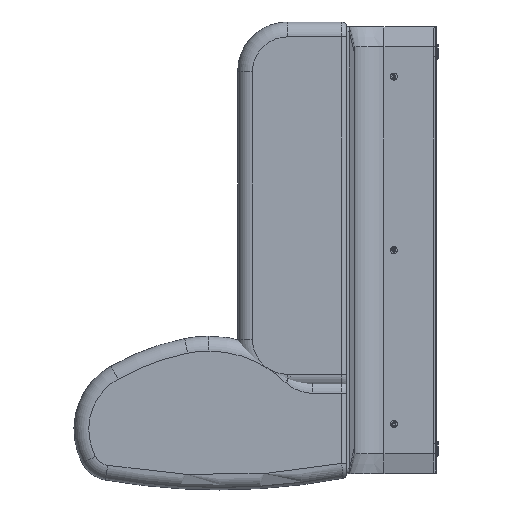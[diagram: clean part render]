
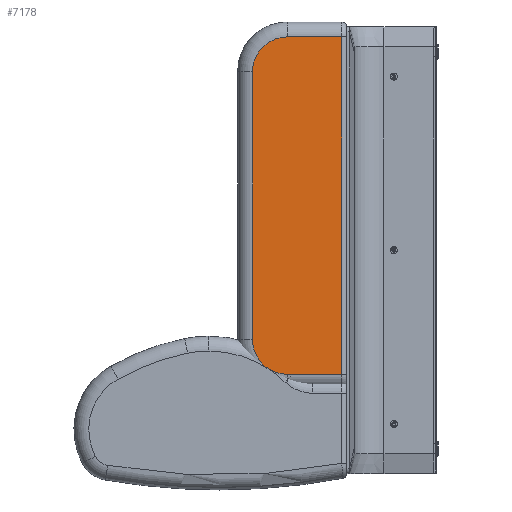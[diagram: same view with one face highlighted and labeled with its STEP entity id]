
A CAD part, left-side view. The second image highlights one B-rep face of the part: STEP entity #7178.
In plain terms, the highlighted planar face has unit normal (-1, 0, 0).
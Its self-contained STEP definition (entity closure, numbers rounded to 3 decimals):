
#118 = CARTESIAN_POINT ( 'NONE',  ( -615., 190., -90. ) ) ;
#333 = AXIS2_PLACEMENT_3D ( 'NONE', #5410, #7599, #4746 ) ;
#365 = ORIENTED_EDGE ( 'NONE', *, *, #4636, .T. ) ;
#618 = VECTOR ( 'NONE', #9171, 1000. ) ;
#760 = CARTESIAN_POINT ( 'NONE',  ( -615., 190., 10. ) ) ;
#857 = DIRECTION ( 'NONE',  ( 0., 0., -1. ) ) ;
#1058 = FACE_OUTER_BOUND ( 'NONE', #6785, .T. ) ;
#1392 = DIRECTION ( 'NONE',  ( 0., -1., 0. ) ) ;
#1474 = ORIENTED_EDGE ( 'NONE', *, *, #5000, .T. ) ;
#1631 = DIRECTION ( 'NONE',  ( 0., 0., -1. ) ) ;
#1732 = CARTESIAN_POINT ( 'NONE',  ( -615., 120., -20. ) ) ;
#1764 = EDGE_CURVE ( 'NONE', #6513, #4954, #8873, .T. ) ;
#1834 = CARTESIAN_POINT ( 'NONE',  ( -615., 220., -20. ) ) ;
#1856 = VERTEX_POINT ( 'NONE', #1732 ) ;
#1920 = CARTESIAN_POINT ( 'NONE',  ( -615., 10., -700. ) ) ;
#2056 = ORIENTED_EDGE ( 'NONE', *, *, #7579, .T. ) ;
#2620 = CIRCLE ( 'NONE', #333, 70. ) ;
#2637 = PLANE ( 'NONE',  #3777 ) ;
#3155 = CARTESIAN_POINT ( 'NONE',  ( -615., 10., -20. ) ) ;
#3161 = CARTESIAN_POINT ( 'NONE',  ( -615., 120., -90. ) ) ;
#3305 = ORIENTED_EDGE ( 'NONE', *, *, #4675, .T. ) ;
#3777 = AXIS2_PLACEMENT_3D ( 'NONE', #9115, #4738, #3974 ) ;
#3974 = DIRECTION ( 'NONE',  ( 0., 0., -1. ) ) ;
#4603 = AXIS2_PLACEMENT_3D ( 'NONE', #3161, #8762, #857 ) ;
#4636 = EDGE_CURVE ( 'NONE', #4954, #5082, #2620, .T. ) ;
#4675 = EDGE_CURVE ( 'NONE', #5884, #1856, #8358, .T. ) ;
#4738 = DIRECTION ( 'NONE',  ( 1., 0., 0. ) ) ;
#4746 = DIRECTION ( 'NONE',  ( 0., 0., -1. ) ) ;
#4812 = EDGE_CURVE ( 'NONE', #5082, #6010, #9391, .T. ) ;
#4954 = VERTEX_POINT ( 'NONE', #6779 ) ;
#5000 = EDGE_CURVE ( 'NONE', #1856, #6513, #7490, .T. ) ;
#5003 = ORIENTED_EDGE ( 'NONE', *, *, #4812, .T. ) ;
#5082 = VERTEX_POINT ( 'NONE', #6108 ) ;
#5410 = CARTESIAN_POINT ( 'NONE',  ( -615., 120., -630. ) ) ;
#5884 = VERTEX_POINT ( 'NONE', #8126 ) ;
#6010 = VERTEX_POINT ( 'NONE', #1920 ) ;
#6108 = CARTESIAN_POINT ( 'NONE',  ( -615., 120., -700. ) ) ;
#6513 = VERTEX_POINT ( 'NONE', #118 ) ;
#6771 = LINE ( 'NONE', #3155, #8205 ) ;
#6779 = CARTESIAN_POINT ( 'NONE',  ( -615., 190., -630. ) ) ;
#6785 = EDGE_LOOP ( 'NONE', ( #5003, #2056, #3305, #1474, #8135, #365 ) ) ;
#7170 = VECTOR ( 'NONE', #1392, 1000. ) ;
#7178 = ADVANCED_FACE ( 'NONE', ( #1058 ), #2637, .F. ) ;
#7490 = CIRCLE ( 'NONE', #4603, 70. ) ;
#7579 = EDGE_CURVE ( 'NONE', #6010, #5884, #6771, .T. ) ;
#7599 = DIRECTION ( 'NONE',  ( -1., 0., 0. ) ) ;
#7967 = CARTESIAN_POINT ( 'NONE',  ( -615., 220., -700. ) ) ;
#8126 = CARTESIAN_POINT ( 'NONE',  ( -615., 10., -20. ) ) ;
#8135 = ORIENTED_EDGE ( 'NONE', *, *, #1764, .T. ) ;
#8205 = VECTOR ( 'NONE', #8957, 1000. ) ;
#8358 = LINE ( 'NONE', #1834, #618 ) ;
#8762 = DIRECTION ( 'NONE',  ( -1., 0., 0. ) ) ;
#8873 = LINE ( 'NONE', #760, #9305 ) ;
#8957 = DIRECTION ( 'NONE',  ( 0., 0., 1. ) ) ;
#9115 = CARTESIAN_POINT ( 'NONE',  ( -615., 220., 10. ) ) ;
#9171 = DIRECTION ( 'NONE',  ( 0., 1., 0. ) ) ;
#9305 = VECTOR ( 'NONE', #1631, 1000. ) ;
#9391 = LINE ( 'NONE', #7967, #7170 ) ;
